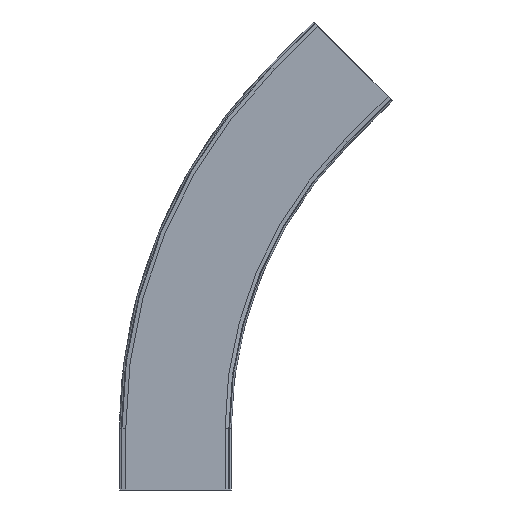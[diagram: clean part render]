
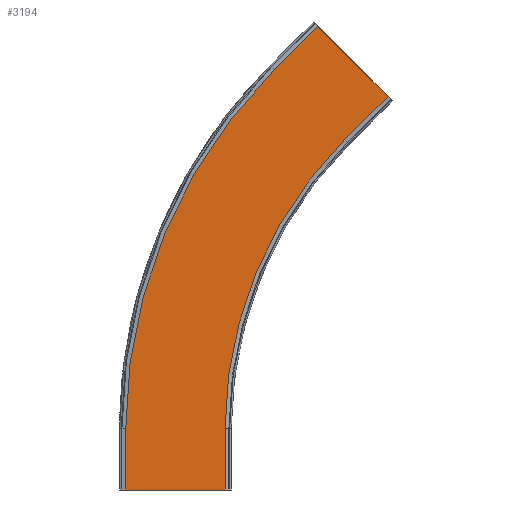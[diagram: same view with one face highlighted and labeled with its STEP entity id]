
A CAD part, front view. The second image highlights one B-rep face of the part: STEP entity #3194.
In plain terms, the highlighted planar face has unit normal (0, -1, 0).
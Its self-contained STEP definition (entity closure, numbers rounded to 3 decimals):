
#131=CIRCLE('',#3392,535.);
#132=CIRCLE('',#3394,665.);
#278=FACE_OUTER_BOUND('',#449,.T.);
#449=EDGE_LOOP('',(#2143,#2144,#2145,#2146,#2147,#2148,#2149,#2150));
#627=LINE('',#4466,#973);
#631=LINE('',#4473,#977);
#642=LINE('',#4506,#988);
#643=LINE('',#4508,#989);
#644=LINE('',#4509,#990);
#645=LINE('',#4510,#991);
#973=VECTOR('',#3632,10.);
#977=VECTOR('',#3638,10.);
#988=VECTOR('',#3669,10.);
#989=VECTOR('',#3670,10.);
#990=VECTOR('',#3671,10.);
#991=VECTOR('',#3672,10.);
#1319=VERTEX_POINT('',#4463);
#1320=VERTEX_POINT('',#4465);
#1322=VERTEX_POINT('',#4471);
#1331=VERTEX_POINT('',#4497);
#1332=VERTEX_POINT('',#4499);
#1333=VERTEX_POINT('',#4503);
#1334=VERTEX_POINT('',#4505);
#1335=VERTEX_POINT('',#4507);
#1635=EDGE_CURVE('',#1320,#1319,#627,.T.);
#1639=EDGE_CURVE('',#1322,#1319,#631,.T.);
#1652=EDGE_CURVE('',#1332,#1331,#131,.T.);
#1654=EDGE_CURVE('',#1333,#1322,#132,.T.);
#1655=EDGE_CURVE('',#1334,#1333,#642,.T.);
#1656=EDGE_CURVE('',#1334,#1335,#643,.T.);
#1657=EDGE_CURVE('',#1335,#1332,#644,.T.);
#1658=EDGE_CURVE('',#1331,#1320,#645,.T.);
#2143=ORIENTED_EDGE('',*,*,#1635,.T.);
#2144=ORIENTED_EDGE('',*,*,#1639,.F.);
#2145=ORIENTED_EDGE('',*,*,#1654,.F.);
#2146=ORIENTED_EDGE('',*,*,#1655,.F.);
#2147=ORIENTED_EDGE('',*,*,#1656,.T.);
#2148=ORIENTED_EDGE('',*,*,#1657,.T.);
#2149=ORIENTED_EDGE('',*,*,#1652,.T.);
#2150=ORIENTED_EDGE('',*,*,#1658,.T.);
#3081=PLANE('',#3393);
#3194=ADVANCED_FACE('',(#278),#3081,.T.);
#3392=AXIS2_PLACEMENT_3D('',#4500,#3662,#3663);
#3393=AXIS2_PLACEMENT_3D('',#4502,#3665,#3666);
#3394=AXIS2_PLACEMENT_3D('',#4504,#3667,#3668);
#3632=DIRECTION('',(-0.707,0.,0.707));
#3638=DIRECTION('',(0.707,0.,0.707));
#3662=DIRECTION('center_axis',(0.,1.,0.));
#3663=DIRECTION('ref_axis',(-1.,0.,0.));
#3665=DIRECTION('center_axis',(0.,-1.,0.));
#3666=DIRECTION('ref_axis',(-0.707,0.,-0.707));
#3667=DIRECTION('center_axis',(0.,1.,0.));
#3668=DIRECTION('ref_axis',(-1.,0.,0.));
#3669=DIRECTION('',(0.,0.,1.));
#3670=DIRECTION('',(1.,0.,0.));
#3671=DIRECTION('',(0.,0.,1.));
#3672=DIRECTION('',(0.707,0.,0.707));
#4463=CARTESIAN_POINT('',(225.343,-72.,606.795));
#4465=CARTESIAN_POINT('',(317.267,-72.,514.871));
#4466=CARTESIAN_POINT('',(293.225,-72.,538.912));
#4471=CARTESIAN_POINT('',(168.775,-72.,550.226));
#4473=CARTESIAN_POINT('',(-221.01,-72.,160.441));
#4497=CARTESIAN_POINT('',(260.699,-72.,458.302));
#4499=CARTESIAN_POINT('',(104.001,-72.,80.));
#4500=CARTESIAN_POINT('Origin',(639.001,-72.,80.));
#4502=CARTESIAN_POINT('Origin',(-129.086,-72.,68.517));
#4503=CARTESIAN_POINT('',(-25.999,-72.,80.));
#4504=CARTESIAN_POINT('Origin',(639.001,-72.,80.));
#4505=CARTESIAN_POINT('',(-25.999,-72.,0.));
#4506=CARTESIAN_POINT('',(-25.999,-72.,0.));
#4507=CARTESIAN_POINT('',(104.001,-72.,0.));
#4508=CARTESIAN_POINT('',(-25.999,-72.,0.));
#4509=CARTESIAN_POINT('',(104.001,-72.,0.));
#4510=CARTESIAN_POINT('',(-129.086,-72.,68.517));
